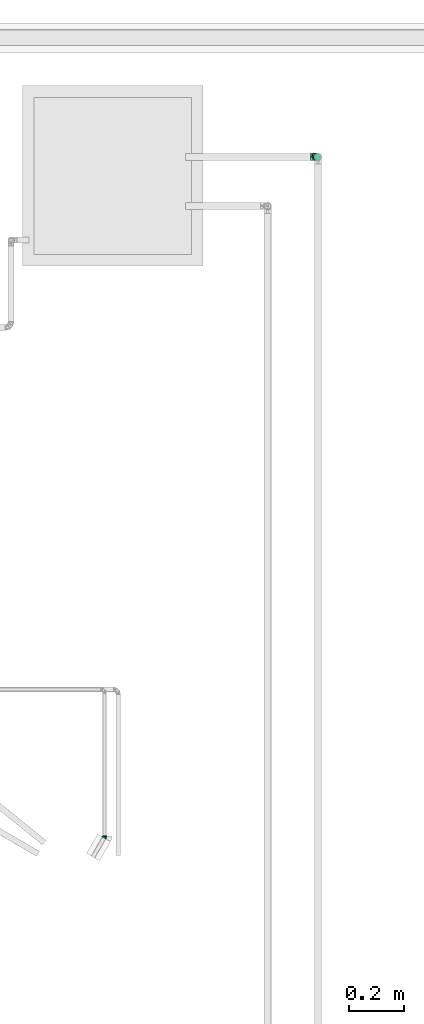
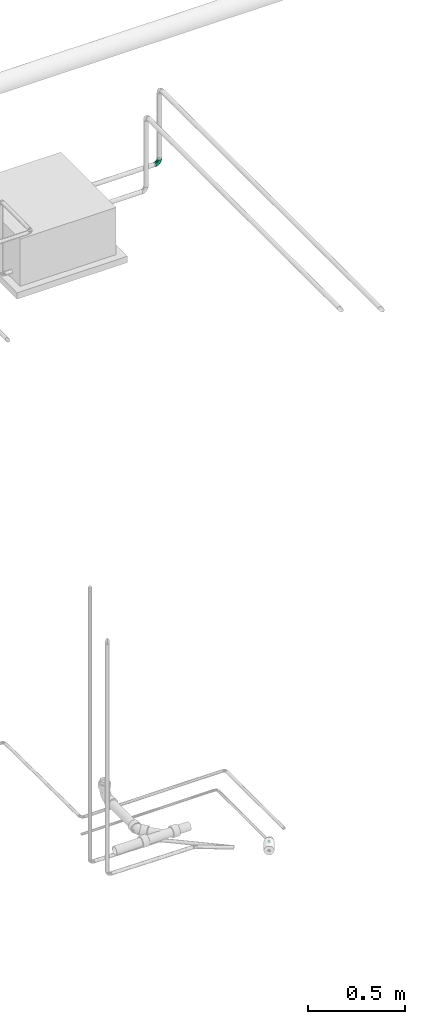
# One storey, part 34 of 35: 2 flow fittings.
"""IFC2X3 building model written with IfcOpenShell, lengths in millimetres."""

from ifc_helpers import new_model, entity, si_unit, converted_unit, derived_unit, direction, frame, origin_with_axes, place, context, subcontext, project, spatial, open_shell, surface_model, source, transform, mapped, type_object, element, save


model = new_model("IFC2X3")

# Units and contexts
model_context = context("Model", 3, precision=0.01, world=frame((0.0, 4.29681676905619e-09, 0.0)), true_north=direction((4.01073788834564e-13, 1.0)))
plan_context = context("Plan", 3, precision=0.01, world=frame((0.0, 4.29681676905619e-09, 0.0)), true_north=direction((4.01073788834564e-13, 1.0)))
body_context = subcontext(model_context, "Body", "Model", "MODEL_VIEW")
ifc_project = project(units=[converted_unit("PLANEANGLEUNIT", "DEGREE", entity("IfcPositiveLengthMeasure", 0.0174532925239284), si_unit("PLANEANGLEUNIT", "RADIAN"), dimensions=[0, 0, 0, 0, 0, 0, 0]), si_unit("AREAUNIT", "SQUARE_METRE"), si_unit("LENGTHUNIT", "METRE", prefix="MILLI"), si_unit("MASSUNIT", "GRAM", prefix="KILO"), si_unit("POWERUNIT", "WATT"), si_unit("PRESSUREUNIT", "PASCAL"), si_unit("FORCEUNIT", "NEWTON", prefix="KILO"), si_unit("ELECTRICVOLTAGEUNIT", "VOLT"), si_unit("ELECTRICCURRENTUNIT", "AMPERE"), si_unit("THERMODYNAMICTEMPERATUREUNIT", "DEGREE_CELSIUS"), si_unit("TIMEUNIT", "SECOND"), si_unit("VOLUMEUNIT", "CUBIC_METRE"), derived_unit("LINEARVELOCITYUNIT", [(si_unit("LENGTHUNIT", "METRE"), 1), (si_unit("TIMEUNIT", "SECOND"), -1)]), derived_unit("VOLUMETRICFLOWRATEUNIT", [(si_unit("VOLUMEUNIT", "CUBIC_METRE"), 1), (si_unit("TIMEUNIT", "SECOND"), -1)]), derived_unit("THERMALTRANSMITTANCEUNIT", [(si_unit("POWERUNIT", "WATT"), 1), (si_unit("THERMODYNAMICTEMPERATUREUNIT", "KELVIN"), -1), (si_unit("AREAUNIT", "SQUARE_METRE"), -1)]), derived_unit("SOUNDPRESSUREUNIT", [(si_unit("PRESSUREUNIT", "PASCAL"), 1)])], contexts=[model_context, plan_context])

# Site, building, storey
site_placement = place(None, frame((0.0, -4.29681676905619e-09, 0.0), z_axis=(0.0, 0.0, 1.0), x_axis=(1.0, 0.0, 0.0)))
site = spatial("IfcSite", under=ifc_project, at=site_placement, Name="ENGM", CompositionType="ELEMENT")
building_placement = place(site_placement, frame((0.0, 4.29681676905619e-09, 0.0), z_axis=(0.0, 0.0, 1.0), x_axis=(1.0, 0.0, 0.0)))
building = spatial("IfcBuilding", under=site, at=building_placement, Name="TH", CompositionType="ELEMENT")
storey_placement = place(building_placement, frame((0.0, 0.0, 210200.0), z_axis=(0.0, 0.0, 1.0), x_axis=(1.0, 0.0, 0.0)))
storey = spatial("IfcBuildingStorey", under=building, at=storey_placement, Name="Nivå F - 0,7 m", CompositionType="ELEMENT", Elevation=210200.0)

# Flow fittings
pipe_fitting_type_1 = type_object("IfcPipeFittingType", Name="magi_pipe_cu_elbow_short_001", PredefinedType="BEND")
shared_shape_1 = source(origin_with_axes(), body_context, "Body", "SurfaceModel", [
    surface_model("IfcShellBasedSurfaceModel", [(-4.01924, 0.0, -7.5), (-4.01924, -6.49519, -3.75), (-4.01924, 1.94114, -7.24444), (-4.01924, 3.75, -6.49519), (-4.01924, 5.3033, -5.3033), (-4.01924, 7.24444, -1.94114), (-4.01924, 6.49519, -3.75), (-4.01924, -5.3033, -5.3033), (-4.01924, -3.75, -6.49519), (-4.01924, -1.94114, -7.24444), (-4.01924, -7.24444, -1.94114), (-4.01924, -7.5, 0.0), (-4.01924, -6.49519, 3.75), (-4.01924, 7.24444, 1.94114), (-4.01924, 6.49519, 3.75), (-4.01924, 3.75, 6.49519), (-4.01924, 1.94114, 7.24444), (-4.01924, 5.3033, 5.3033), (-4.01924, -5.3033, 5.3033), (-4.01924, -7.24444, 1.94114), (-4.01924, -1.94114, 7.24444), (-4.01924, 0.0, 7.5), (-4.01924, -3.75, 6.49519), (-4.01924, 7.5, 0.0), (3.48076, 2.00962, -7.5), (2.51019, 3.6907, -7.24444), (1.60576, 5.25721, -6.49519), (6.72836, -3.61538, -3.75), (0.82911, 6.60241, -5.3033), (0.23317, 7.63462, -3.75), (6.72836, -3.61538, 3.75), (5.35576, -1.23798, -6.49519), (6.13241, -2.58317, -5.3033), (4.45133, 0.32854, -7.24444), (7.23076, -4.48557, 0.0), (7.10298, -4.26425, -1.94114), (-0.14146, 8.28349, -1.94114), (-0.14146, 8.28349, 1.94114), (0.23317, 7.63462, 3.75), (2.51019, 3.6907, 7.24444), (1.60576, 5.25721, 6.49519), (0.82911, 6.60241, 5.3033), (6.13241, -2.58317, 5.3033), (7.10298, -4.26425, 1.94114), (5.35576, -1.23798, 6.49519), (3.48076, 2.00962, 7.5), (4.45133, 0.32854, 7.24444), (-0.26924, 8.50481, 0.0), (-0.72385, -7.06615, 0.0), (-2.37155, -7.28308, 0.0), (0.42273, -1.57766, 7.18149), (-1.41684, 5.28771, 5.6388), (-2.0781, 7.75556, 0.0), (1.80419, -6.73333, 0.0), (4.15995, -5.75754, 0.0), (5.69536, -5.12156, 0.0), (0.42273, -1.57766, -7.18149), (-1.41684, 5.28771, -5.6388)], [open_shell([[[0, 1, 2]], [[3, 2, 4]], [[5, 6, 4]], [[4, 2, 1]], [[5, 4, 1]], [[7, 1, 8]], [[9, 8, 1]], [[10, 11, 1]], [[0, 9, 1]], [[11, 12, 1]], [[12, 5, 1]], [[13, 5, 12]], [[14, 13, 15]], [[13, 16, 15]], [[17, 14, 15]], [[16, 13, 12]], [[12, 18, 16]], [[12, 11, 19]], [[20, 21, 22]], [[18, 22, 21]], [[16, 18, 21]], [[13, 23, 5]], [[24, 25, 26]], [[27, 24, 26]], [[27, 28, 29]], [[26, 28, 27]], [[29, 30, 27]], [[31, 27, 32]], [[31, 33, 24]], [[27, 34, 35]], [[31, 24, 27]], [[27, 30, 34]], [[29, 36, 30]], [[36, 37, 38]], [[36, 38, 39]], [[40, 39, 38]], [[40, 38, 41]], [[42, 36, 39]], [[42, 30, 36]], [[43, 34, 30]], [[44, 45, 46]], [[45, 44, 42]], [[45, 42, 39]], [[47, 37, 36]], [[18, 48, 22]], [[49, 18, 12]], [[22, 48, 50]], [[50, 16, 21]], [[50, 20, 22]], [[17, 51, 14]], [[19, 49, 12]], [[48, 18, 49]], [[15, 50, 51]], [[15, 51, 17]], [[20, 50, 21]], [[14, 51, 13]], [[52, 23, 13]], [[51, 52, 13]], [[15, 16, 50]], [[19, 11, 49]], [[53, 50, 48]], [[50, 54, 44]], [[44, 46, 50]], [[46, 45, 50]], [[55, 42, 54]], [[54, 42, 44]], [[43, 55, 34]], [[37, 47, 52]], [[37, 52, 51]], [[51, 50, 40]], [[55, 30, 42]], [[40, 50, 39]], [[30, 55, 43]], [[51, 38, 37]], [[50, 53, 54]], [[41, 51, 40]], [[51, 41, 38]], [[45, 39, 50]], [[49, 1, 7]], [[1, 49, 10]], [[2, 3, 56]], [[2, 56, 0]], [[57, 5, 52]], [[4, 6, 57]], [[56, 53, 48]], [[57, 6, 5]], [[57, 56, 3]], [[57, 3, 4]], [[49, 11, 10]], [[7, 48, 49]], [[48, 8, 56]], [[48, 7, 8]], [[9, 56, 8]], [[0, 56, 9]], [[5, 23, 52]], [[52, 47, 36]], [[36, 29, 57]], [[28, 26, 57]], [[35, 34, 55]], [[56, 26, 25]], [[54, 32, 55]], [[28, 57, 29]], [[57, 26, 56]], [[24, 56, 25]], [[33, 56, 24]], [[31, 32, 54]], [[56, 31, 54]], [[35, 55, 27]], [[53, 56, 54]], [[32, 27, 55]], [[31, 56, 33]], [[52, 36, 57]]])]),
])
flow_fitting_1_placement = place(storey_placement, frame((899440.50163, 483437.73199, 97.1000000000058), z_axis=(-0.000502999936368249, 3.25260651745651e-19, 0.999999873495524), x_axis=(0.500000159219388, 0.866025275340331, 0.000251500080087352)))
element("IfcFlowFitting", 1, at=flow_fitting_1_placement, inside=storey, type_object=pipe_fitting_type_1, Name="magi_pipe_cu_elbow_short_001", context=body_context, shape_type="MappedRepresentation", body=[
    mapped(shared_shape_1, transform((0.0, 0.0, 0.0), scale=1.0)),
])
pipe_fitting_type_2 = type_object("IfcPipeFittingType", Name="magi_pipe_fe_elbow_short_001", PredefinedType="BEND")
shared_shape_2 = source(origin_with_axes(), body_context, "Body", "SurfaceModel", [
    surface_model("IfcShellBasedSurfaceModel", [(-26.8, 6.7, -11.60474), (-26.8, 3.46818, -12.94341), (-26.8, 0.0, -13.4), (-26.8, -11.60474, -6.7), (-26.8, -3.46818, -12.94341), (-26.8, -9.47523, -9.47523), (-26.8, 12.94341, -3.46818), (-26.8, 12.94341, 3.46818), (-26.8, 13.4, 0.0), (-26.8, 9.47523, -9.47523), (-26.8, -6.7, -11.60474), (-26.8, -11.60474, 6.7), (-26.8, 11.60474, -6.7), (-26.8, -13.4, 0.0), (-26.8, -12.94341, -3.46818), (-26.8, -12.94341, 3.46818), (-26.8, -9.47523, 9.47523), (-26.8, -6.7, 11.60474), (-26.8, -3.46818, 12.94341), (-26.8, 6.7, 11.60474), (-26.8, 9.47523, 9.47523), (-26.8, 11.60474, 6.7), (-26.8, 3.46818, 12.94341), (-26.8, 0.0, 13.4), (0.0, -26.8, -13.4), (12.94341, -26.8, -3.46818), (-3.46818, -26.8, -12.94341), (-6.7, -26.8, -11.60474), (-9.47523, -26.8, -9.47523), (-11.60474, -26.8, -6.7), (-11.60474, -26.8, 6.7), (9.47523, -26.8, -9.47523), (6.7, -26.8, -11.60474), (3.46818, -26.8, -12.94341), (11.60474, -26.8, -6.7), (13.4, -26.8, 0.0), (12.94341, -26.8, 3.46818), (-12.94341, -26.8, -3.46818), (-12.94341, -26.8, 3.46818), (-3.46818, -26.8, 12.94341), (-6.7, -26.8, 11.60474), (-9.47523, -26.8, 9.47523), (6.7, -26.8, 11.60474), (11.60474, -26.8, 6.7), (9.47523, -26.8, 9.47523), (3.46818, -26.8, 12.94341), (0.0, -26.8, 13.4), (-13.4, -26.8, 0.0), (-19.61933, 10.40522, 7.51874), (-17.94383, 11.72186, 4.19396), (-10.88146, 9.75217, 2.96415), (-14.00394, 9.97131, 0.0), (-0.16552, 0.70254, 6.90229), (2.9355, -3.86758, 7.99817), (5.6402, -4.14256, 4.06277), (-3.60975, 5.23517, 4.12915), (-11.69279, 8.47867, 6.74741), (-20.40197, 11.68565, 0.0), (3.23022, -10.34855, 11.14395), (7.71917, -17.5318, 9.98024), (6.07727, -10.7767, 9.16668), (-17.5318, 7.71917, 9.98024), (-19.6814, 5.06542, 12.05518), (-18.76435, -2.05404, 13.37716), (-20.47091, 1.77513, 13.17083), (-13.34095, 0.12025, 12.98799), (-10.34855, 3.23022, 11.14395), (-20.6562, -5.25542, 12.65822), (-23.45804, -12.58298, 5.55254), (-19.1981, -14.0055, 6.12639), (-21.01515, -11.15223, 8.78653), (-13.79572, -19.62699, 6.0655), (-7.97904, -5.85569, 13.33097), (-9.92557, -9.92557, 13.07441), (-4.65712, -13.17755, 13.37596), (-14.12498, -14.96497, 9.49183), (-23.18377, -8.11481, 10.91864), (-1.36893, -7.23965, 12.31444), (-6.65819, -2.45826, 12.5129), (-3.49778, -8.97497, 13.15743), (-20.76788, -15.89859, 0.0), (-22.3163, -13.71444, 3.37662), (-1.83653, -20.04451, 13.36709), (-5.00198, -23.11411, 12.55149), (5.06542, -19.6814, 12.05518), (-2.39362, -2.39362, 10.95564), (-4.60225, 3.19632, 8.30444), (1.77513, -20.47091, 13.17083), (11.72186, -17.94383, 4.19396), (8.47867, -11.69279, 6.74741), (10.40522, -19.61933, 7.51874), (-10.7767, 6.07727, 9.16668), (-18.32912, -15.92283, 3.19527), (-14.71477, -20.20527, 3.11661), (9.97131, -14.00394, 0.0), (9.75217, -10.88146, 2.96415), (11.68565, -20.40197, 0.0), (-17.32477, -17.32477, 0.0), (8.01422, -6.7, 0.0), (-11.06207, -21.36651, 8.74797), (-8.46783, -20.75346, 11.10693), (-11.0099, -17.80242, 10.25412), (-5.79525, -18.15733, 12.76163), (-10.13559, -14.48567, 11.94159), (-14.31139, -12.02432, 11.13575), (-6.7, 8.01422, 0.0), (-13.14892, -3.28357, 13.39428), (-14.72492, -5.73985, 13.1602), (-14.24576, -9.09225, 12.39421), (-7.80572, -13.90987, 12.83655), (0.12025, -13.34095, 12.98799), (-18.45241, -9.09615, 11.28418), (-1.02036, -0.84565, 9.15855), (-3.66591, 4.13183, 6.30134), (1.56761, 1.1228, 3.23127), (-3.02144, 4.33567, 0.0), (-15.89859, -20.76788, 0.0), (4.33567, -3.02144, 0.0), (0.65711, 0.65711, 0.0), (-21.21323, -1.69434, -13.35639), (-11.59215, -19.61477, -8.94181), (-19.9553, 12.05444, -4.41231), (-20.61911, -5.26132, -12.65979), (-18.29002, -15.89425, -3.37935), (-5.38395, 0.22423, -10.97991), (-11.6358, 0.16715, -12.74497), (-10.94714, 3.38176, -11.24231), (-21.18665, -11.10723, -8.76769), (-19.45447, -8.78609, -11.20697), (8.05635, -19.80434, -10.14754), (-16.16073, -12.27967, -10.10626), (-4.63434, 6.26604, -3.21731), (-10.65974, 9.81032, -2.24682), (-12.38435, -12.38435, -11.76567), (-9.54276, -16.38525, -11.6371), (-12.41035, -15.57424, -10.31822), (4.94456, -3.94062, -5.27361), (1.17703, -2.36499, -8.51656), (-1.18054, 2.52878, -5.66699), (-13.23013, -7.7548, -12.95755), (-18.92609, 10.30887, -7.4546), (-19.80434, 8.05635, -10.14754), (-5.46999, -19.49566, -12.70683), (12.05444, -19.9553, -4.41231), (-22.63124, 5.28269, -12.19553), (-10.00514, 5.4662, -9.37392), (-11.57403, 7.91736, -7.4927), (2.76952, -11.43973, -11.70622), (0.16715, -11.6358, -12.74497), (0.56412, -6.29454, -11.17498), (-22.71135, -13.83144, -2.294), (-14.02683, -21.74629, -2.98452), (-13.13887, -21.26515, -5.84046), (10.30887, -18.92609, -7.4546), (-4.73052, -4.73052, -12.6532), (-16.28385, -15.93209, -6.57302), (-1.69434, -21.21323, -13.35639), (-8.4106, -21.03687, -11.08508), (5.28269, -22.63124, -12.19553), (1.68957, -19.74249, -13.15499), (-16.96978, 4.62448, -11.91765), (-19.74249, 1.68957, -13.15499), (-3.16773, -14.76219, -13.39711), (-7.92886, -12.7032, -13.00116), (-7.24575, -7.81916, -13.39239), (-6.57993, 6.26304, -6.05124), (6.59847, -4.89531, -2.6225), (9.46363, -9.95483, -2.39006), (0.29079, 2.47661, -2.876), (-21.42347, -13.17132, -5.65321), (8.33374, -12.94014, -7.69724), (9.35918, -11.66841, -5.08525), (4.62448, -16.96978, -11.91765), (5.4662, -10.00514, -9.37392), (-3.89324, 2.60816, -8.35445), (5.97121, -7.49007, -7.29975), (-14.76219, -3.16773, -13.39711), (-15.36238, -22.06238, 0.0), (-11.66841, 9.35918, -5.08525), (3.63632, -1.19488, -3.35093), (-14.94382, -15.17624, -8.6945)], [open_shell([[[0, 1, 2]], [[3, 4, 5]], [[6, 7, 8]], [[0, 6, 9]], [[4, 6, 2]], [[5, 4, 10]], [[6, 4, 3]], [[11, 6, 3]], [[9, 6, 12]], [[2, 6, 0]], [[13, 3, 14]], [[15, 11, 3]], [[11, 16, 6]], [[16, 17, 18]], [[18, 6, 16]], [[19, 6, 18]], [[7, 20, 21]], [[20, 7, 19]], [[18, 22, 19]], [[7, 6, 19]], [[23, 22, 18]], [[15, 3, 13]], [[24, 25, 26]], [[27, 26, 28]], [[29, 26, 25]], [[28, 26, 29]], [[29, 25, 30]], [[31, 25, 32]], [[24, 33, 32]], [[34, 25, 31]], [[32, 25, 24]], [[35, 36, 25]], [[37, 29, 38]], [[29, 30, 38]], [[25, 39, 30]], [[39, 40, 41]], [[30, 39, 41]], [[25, 42, 39]], [[43, 44, 36]], [[42, 36, 44]], [[42, 45, 39]], [[42, 25, 36]], [[39, 45, 46]], [[38, 47, 37]], [[21, 48, 49]], [[50, 51, 49]], [[52, 53, 54]], [[55, 50, 56]], [[21, 20, 48]], [[7, 49, 57]], [[58, 59, 60]], [[20, 19, 61]], [[19, 62, 61]], [[63, 64, 23]], [[65, 66, 62]], [[42, 44, 59]], [[64, 22, 23]], [[18, 17, 67]], [[68, 69, 70]], [[71, 38, 30]], [[72, 73, 74]], [[75, 70, 69]], [[18, 63, 23]], [[16, 76, 17]], [[70, 16, 11]], [[77, 78, 79]], [[13, 80, 81]], [[82, 83, 39]], [[59, 84, 42]], [[66, 85, 86]], [[87, 46, 45]], [[88, 89, 90]], [[61, 66, 91]], [[82, 39, 46]], [[92, 93, 71]], [[94, 95, 88]], [[45, 42, 84]], [[43, 88, 90]], [[58, 84, 59]], [[88, 43, 36]], [[69, 71, 75]], [[22, 62, 19]], [[36, 96, 88]], [[92, 80, 97]], [[94, 98, 95]], [[92, 97, 93]], [[57, 49, 51]], [[11, 15, 68]], [[99, 100, 101]], [[100, 99, 41]], [[100, 41, 40]], [[100, 102, 103]], [[82, 74, 102]], [[102, 100, 83]], [[40, 39, 83]], [[103, 104, 101]], [[81, 15, 13]], [[63, 18, 67]], [[105, 51, 50]], [[7, 21, 49]], [[61, 56, 48]], [[90, 44, 43]], [[95, 54, 89]], [[72, 106, 107]], [[107, 67, 108]], [[99, 30, 41]], [[109, 103, 102]], [[74, 109, 102]], [[110, 82, 87]], [[16, 70, 76]], [[104, 111, 70]], [[61, 62, 66]], [[65, 62, 64]], [[56, 61, 91]], [[78, 85, 66]], [[45, 84, 87]], [[58, 77, 110]], [[84, 58, 110]], [[58, 112, 85]], [[49, 48, 56]], [[48, 20, 61]], [[90, 59, 44]], [[59, 90, 89]], [[63, 67, 107]], [[111, 67, 76]], [[89, 54, 53]], [[86, 85, 112]], [[56, 113, 55]], [[53, 52, 112]], [[59, 89, 60]], [[105, 50, 55]], [[55, 114, 115]], [[81, 68, 15]], [[92, 71, 69]], [[93, 116, 47]], [[97, 116, 93]], [[99, 71, 30]], [[71, 99, 75]], [[100, 103, 101]], [[111, 104, 108]], [[73, 72, 107]], [[74, 82, 110]], [[65, 72, 78]], [[79, 72, 74]], [[46, 87, 82]], [[110, 87, 84]], [[22, 64, 62]], [[65, 64, 63]], [[57, 8, 7]], [[94, 88, 96]], [[36, 35, 96]], [[54, 117, 114]], [[115, 105, 55]], [[50, 49, 56]], [[88, 95, 89]], [[95, 98, 54]], [[106, 63, 107]], [[73, 107, 108]], [[73, 108, 103]], [[111, 108, 67]], [[108, 104, 103]], [[75, 104, 70]], [[106, 65, 63]], [[106, 72, 65]], [[65, 78, 66]], [[85, 78, 77]], [[85, 77, 58]], [[110, 77, 79]], [[110, 79, 74]], [[72, 79, 78]], [[17, 76, 67]], [[111, 76, 70]], [[40, 83, 100]], [[102, 83, 82]], [[11, 68, 70]], [[92, 69, 81]], [[68, 81, 69]], [[80, 92, 81]], [[91, 86, 56]], [[91, 66, 86]], [[60, 53, 58]], [[60, 89, 53]], [[86, 112, 52]], [[53, 112, 58]], [[52, 113, 86]], [[52, 114, 113]], [[86, 113, 56]], [[55, 113, 114]], [[93, 38, 71]], [[118, 115, 114]], [[38, 93, 47]], [[101, 75, 99]], [[104, 75, 101]], [[109, 73, 103]], [[73, 109, 74]], [[54, 114, 52]], [[118, 114, 117]], [[54, 98, 117]], [[2, 119, 4]], [[120, 28, 29]], [[6, 57, 121]], [[4, 122, 10]], [[80, 123, 97]], [[124, 125, 126]], [[127, 5, 128]], [[32, 129, 31]], [[130, 127, 128]], [[105, 131, 132]], [[133, 134, 135]], [[5, 10, 128]], [[136, 137, 138]], [[128, 122, 139]], [[127, 3, 5]], [[121, 140, 12]], [[9, 140, 141]], [[27, 142, 26]], [[96, 143, 94]], [[1, 0, 144]], [[145, 141, 146]], [[96, 35, 25]], [[147, 148, 149]], [[9, 12, 140]], [[150, 80, 13]], [[133, 135, 130]], [[37, 151, 152]], [[143, 34, 153]], [[148, 154, 149]], [[152, 29, 37]], [[152, 155, 120]], [[129, 153, 31]], [[26, 156, 24]], [[142, 156, 26]], [[25, 34, 143]], [[157, 27, 28]], [[155, 151, 123]], [[158, 33, 159]], [[160, 161, 144]], [[128, 10, 122]], [[159, 162, 148]], [[142, 27, 157]], [[163, 164, 162]], [[32, 33, 158]], [[131, 138, 165]], [[31, 153, 34]], [[166, 98, 167]], [[2, 1, 161]], [[125, 161, 160]], [[143, 167, 94]], [[105, 132, 51]], [[12, 6, 121]], [[131, 115, 168]], [[14, 169, 150]], [[117, 98, 166]], [[24, 159, 33]], [[162, 142, 163]], [[134, 157, 135]], [[141, 0, 9]], [[145, 146, 165]], [[153, 170, 171]], [[172, 173, 129]], [[174, 137, 124]], [[173, 137, 175]], [[172, 159, 148]], [[162, 159, 156]], [[149, 173, 147]], [[164, 154, 148]], [[2, 161, 119]], [[125, 164, 176]], [[161, 125, 176]], [[124, 154, 125]], [[3, 127, 169]], [[133, 130, 128]], [[133, 128, 139]], [[176, 122, 119]], [[29, 152, 120]], [[177, 97, 151]], [[134, 163, 142]], [[157, 28, 120]], [[37, 47, 151]], [[150, 123, 80]], [[169, 155, 123]], [[97, 123, 151]], [[121, 178, 140]], [[132, 178, 121]], [[0, 141, 144]], [[160, 141, 145]], [[143, 96, 25]], [[143, 153, 171]], [[170, 153, 129]], [[172, 129, 158]], [[173, 149, 137]], [[149, 154, 124]], [[175, 170, 173]], [[138, 137, 174]], [[149, 124, 137]], [[126, 145, 124]], [[179, 118, 117]], [[166, 136, 179]], [[155, 169, 127]], [[169, 14, 3]], [[51, 121, 57]], [[6, 8, 57]], [[4, 119, 122]], [[176, 119, 161]], [[24, 156, 159]], [[162, 156, 142]], [[164, 148, 162]], [[163, 133, 139]], [[154, 164, 125]], [[176, 164, 139]], [[163, 139, 164]], [[176, 139, 122]], [[127, 180, 155]], [[135, 120, 180]], [[130, 135, 180]], [[120, 135, 157]], [[157, 134, 142]], [[134, 133, 163]], [[130, 180, 127]], [[155, 180, 120]], [[155, 152, 151]], [[177, 151, 47]], [[123, 150, 169]], [[14, 150, 13]], [[51, 132, 121]], [[131, 165, 178]], [[132, 131, 178]], [[138, 131, 168]], [[178, 165, 146]], [[145, 165, 174]], [[146, 140, 178]], [[140, 146, 141]], [[136, 138, 179]], [[166, 167, 171]], [[118, 179, 168]], [[136, 166, 171]], [[171, 167, 143]], [[167, 98, 94]], [[166, 179, 117]], [[168, 179, 138]], [[32, 158, 129]], [[172, 158, 159]], [[1, 144, 161]], [[160, 144, 141]], [[136, 171, 175]], [[173, 170, 129]], [[170, 175, 171]], [[136, 175, 137]], [[147, 172, 148]], [[172, 147, 173]], [[138, 174, 165]], [[145, 174, 124]], [[126, 160, 145]], [[160, 126, 125]], [[118, 168, 115]], [[131, 105, 115]]])]),
])
flow_fitting_2_placement = place(storey_placement, frame((900221.2, 485925.17011, 2600.0), z_axis=(0.0, -1.0, 0.0), x_axis=(0.0, 0.0, -1.0)))
element("IfcFlowFitting", 2, at=flow_fitting_2_placement, inside=storey, type_object=pipe_fitting_type_2, Name="magi_pipe_fe_elbow_short_001", context=body_context, shape_type="MappedRepresentation", body=[
    mapped(shared_shape_2, transform((0.0, 0.0, 0.0), scale=1.0)),
])

save(model, "model.ifc")
